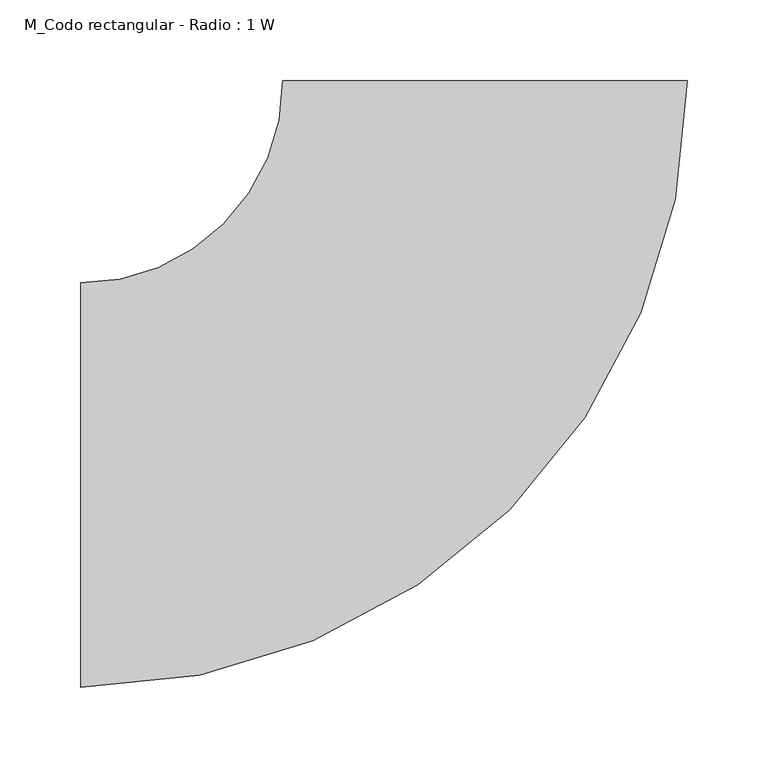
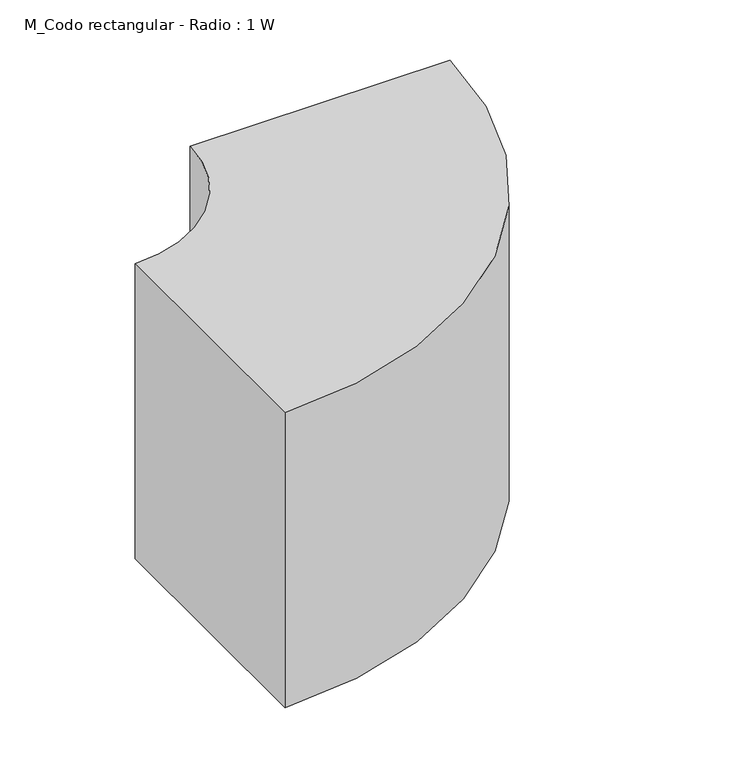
"""IFC4 building model written with IfcOpenShell, lengths in millimetres: duct fitting geometry, M_Codo rectangular - Radio : 1 W."""

from ifc_helpers import new_model, si_unit, point, frame, frame_2d, origin, place, context, project, spatial, polyline, circle_curve, trimmed, segment, composite_curve, outline, extrude, source, transform, mapped, element, save


def m_codo_rectangular_radio_1_w_53d6e0fd(model_context):
    return source(origin(), model_context, "Body", "SweptSolid", [
        extrude(outline(composite_curve([segment(trimmed(circle_curve(frame_2d((-250.0, 250.0)), 375.0), [point((125.0, 250.0))], [point((-250.0, -125.0))], False, "CARTESIAN"), True, "CONTINUOUS"), segment(polyline([(-250.0, -125.0), (-250.0, 125.0)]), True, "CONTINUOUS"), segment(trimmed(circle_curve(frame_2d((-250.0, 250.0)), 125.0), [point((-250.0, 125.0))], [point((-125.0, 250.0))], True, "CARTESIAN"), True, "CONTINUOUS"), segment(polyline([(-125.0, 250.0), (125.0, 250.0)]), True, "CONTINUOUS")], self_intersect=False)), frame((0.0, 0.0, -150.0), z_axis=(0.0, 0.0, 1.0), x_axis=(1.0, 0.0, 0.0)), (0.0, 0.0, 1.0), 300.0),
    ])


if __name__ == "__main__":
    model = new_model("IFC4")
    model_context = context("Model", 3, world=origin())
    ifc_project = project(units=[si_unit("LENGTHUNIT", "METRE", prefix="MILLI")], contexts=[model_context])
    site = spatial("IfcSite", under=ifc_project)
    building = spatial("IfcBuilding", under=site)
    placement = place(None, origin())
    m_codo_rectangular_radio_1_w_shape = m_codo_rectangular_radio_1_w_53d6e0fd(model_context)
    element("IfcDuctFitting", 1, ObjectType="M_Codo rectangular - Radio : 1 W", at=placement, inside=building, context=model_context, shape_type="MappedRepresentation", body=[
        mapped(m_codo_rectangular_radio_1_w_shape, transform((0.0, 0.0, 0.0), x_axis=(1.0, 0.0, 0.0), y_axis=(0.0, 1.0, 0.0), z_axis=(0.0, 0.0, 1.0))),
    ])
    save(model, "model.ifc")
